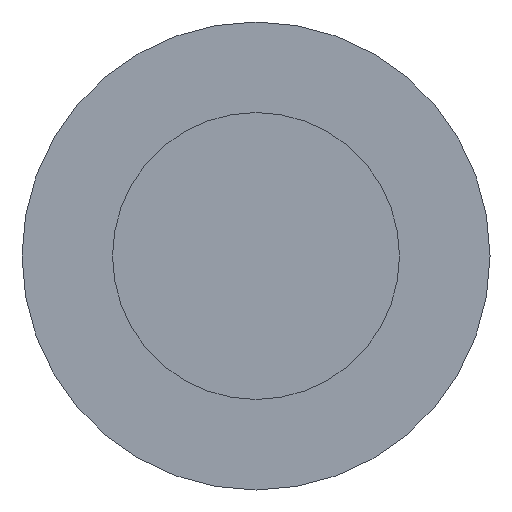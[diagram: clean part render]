
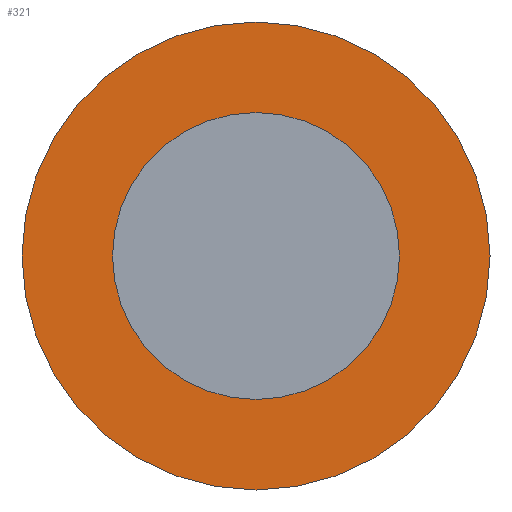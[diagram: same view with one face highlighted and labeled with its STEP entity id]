
A CAD part, front view. The second image highlights one B-rep face of the part: STEP entity #321.
In plain terms, the highlighted planar face has unit normal (0, -1, 0).
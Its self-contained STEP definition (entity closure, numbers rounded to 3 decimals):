
#7 = EDGE_LOOP ( 'NONE', ( #86, #262 ) ) ;
#18 = AXIS2_PLACEMENT_3D ( 'NONE', #50, #301, #105 ) ;
#20 = CARTESIAN_POINT ( 'NONE',  ( 0., 10., 42. ) ) ;
#27 = VERTEX_POINT ( 'NONE', #167 ) ;
#42 = FACE_BOUND ( 'NONE', #117, .T. ) ;
#50 = CARTESIAN_POINT ( 'NONE',  ( 0., 10., 0. ) ) ;
#52 = CIRCLE ( 'NONE', #336, 42. ) ;
#53 = AXIS2_PLACEMENT_3D ( 'NONE', #307, #374, #182 ) ;
#57 = CARTESIAN_POINT ( 'NONE',  ( 0., 10., -25.75 ) ) ;
#68 = VERTEX_POINT ( 'NONE', #20 ) ;
#75 = EDGE_CURVE ( 'NONE', #68, #392, #365, .T. ) ;
#86 = ORIENTED_EDGE ( 'NONE', *, *, #375, .F. ) ;
#92 = CARTESIAN_POINT ( 'NONE',  ( 0., 10., 0. ) ) ;
#105 = DIRECTION ( 'NONE',  ( 0., 0., 1. ) ) ;
#117 = EDGE_LOOP ( 'NONE', ( #340, #305 ) ) ;
#123 = DIRECTION ( 'NONE',  ( 0., 1., 0. ) ) ;
#126 = CIRCLE ( 'NONE', #172, 25.75 ) ;
#143 = AXIS2_PLACEMENT_3D ( 'NONE', #304, #371, #339 ) ;
#161 = DIRECTION ( 'NONE',  ( 0., 1., 0. ) ) ;
#167 = CARTESIAN_POINT ( 'NONE',  ( 0., 10., 25.75 ) ) ;
#172 = AXIS2_PLACEMENT_3D ( 'NONE', #314, #123, #254 ) ;
#182 = DIRECTION ( 'NONE',  ( 0., 0., 1. ) ) ;
#202 = VERTEX_POINT ( 'NONE', #57 ) ;
#217 = CIRCLE ( 'NONE', #143, 25.75 ) ;
#254 = DIRECTION ( 'NONE',  ( 0., 0., 1. ) ) ;
#262 = ORIENTED_EDGE ( 'NONE', *, *, #75, .F. ) ;
#267 = EDGE_CURVE ( 'NONE', #202, #27, #217, .T. ) ;
#301 = DIRECTION ( 'NONE',  ( 0., 1., 0. ) ) ;
#304 = CARTESIAN_POINT ( 'NONE',  ( 0., 10., 0. ) ) ;
#305 = ORIENTED_EDGE ( 'NONE', *, *, #323, .T. ) ;
#307 = CARTESIAN_POINT ( 'NONE',  ( 0., 10., 0. ) ) ;
#312 = DIRECTION ( 'NONE',  ( 0., 0., 1. ) ) ;
#314 = CARTESIAN_POINT ( 'NONE',  ( 0., 10., 0. ) ) ;
#316 = CARTESIAN_POINT ( 'NONE',  ( 0., 10., -42. ) ) ;
#321 = ADVANCED_FACE ( 'NONE', ( #42, #358 ), #337, .F. ) ;
#323 = EDGE_CURVE ( 'NONE', #27, #202, #126, .T. ) ;
#336 = AXIS2_PLACEMENT_3D ( 'NONE', #92, #161, #312 ) ;
#337 = PLANE ( 'NONE',  #53 ) ;
#339 = DIRECTION ( 'NONE',  ( 0., 0., 1. ) ) ;
#340 = ORIENTED_EDGE ( 'NONE', *, *, #267, .T. ) ;
#358 = FACE_OUTER_BOUND ( 'NONE', #7, .T. ) ;
#365 = CIRCLE ( 'NONE', #18, 42. ) ;
#371 = DIRECTION ( 'NONE',  ( 0., 1., 0. ) ) ;
#374 = DIRECTION ( 'NONE',  ( 0., 1., 0. ) ) ;
#375 = EDGE_CURVE ( 'NONE', #392, #68, #52, .T. ) ;
#392 = VERTEX_POINT ( 'NONE', #316 ) ;
